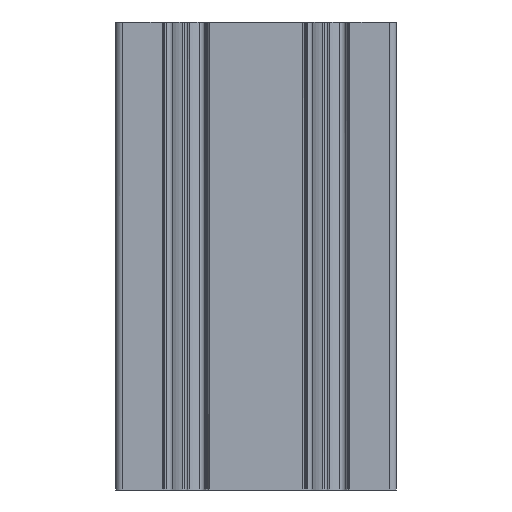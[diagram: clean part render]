
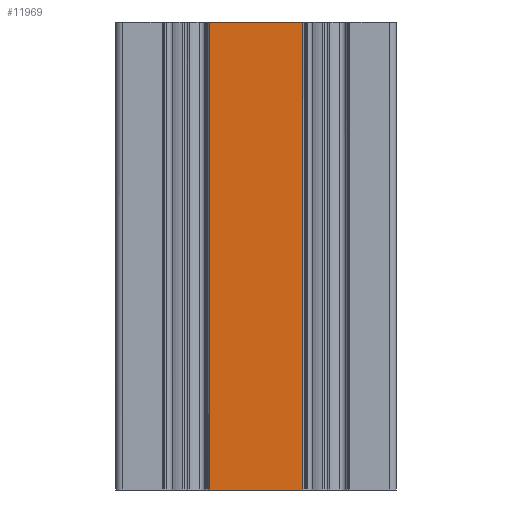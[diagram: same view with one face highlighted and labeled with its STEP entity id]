
A CAD part, front view. The second image highlights one B-rep face of the part: STEP entity #11969.
In plain terms, the highlighted free-form (B-spline) face has degree [1, 1] with [2, 2] control points.
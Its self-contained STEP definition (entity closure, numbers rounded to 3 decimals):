
#18 = CARTESIAN_POINT ( 'NONE',  ( 3692.234, 1745.23, 0. ) ) ;
#522 = CARTESIAN_POINT ( 'NONE',  ( 3712.134, 1745.23, 0. ) ) ;
#675 = CARTESIAN_POINT ( 'NONE',  ( 3712.134, 1745.23, 100. ) ) ;
#679 = B_SPLINE_CURVE_WITH_KNOTS ( 'NONE', 1,
 ( #3909, #7400 ),
 .UNSPECIFIED., .F., .F.,
 ( 2, 2 ),
 ( -1., 0. ),
 .UNSPECIFIED. ) ;
#958 = CARTESIAN_POINT ( 'NONE',  ( 3712.134, 1745.23, 0. ) ) ;
#2304 = EDGE_CURVE ( 'NONE', #7542, #7476, #5463, .T. ) ;
#2526 = CARTESIAN_POINT ( 'NONE',  ( 3692.234, 1745.23, 0. ) ) ;
#3896 = FACE_OUTER_BOUND ( 'NONE', #9547, .T. ) ;
#3909 = CARTESIAN_POINT ( 'NONE',  ( 3692.234, 1745.23, 0. ) ) ;
#4995 = ORIENTED_EDGE ( 'NONE', *, *, #11284, .T. ) ;
#5216 = ORIENTED_EDGE ( 'NONE', *, *, #2304, .F. ) ;
#5280 = CARTESIAN_POINT ( 'NONE',  ( 3712.134, 1745.23, 0. ) ) ;
#5463 = B_SPLINE_CURVE_WITH_KNOTS ( 'NONE', 1,
 ( #6591, #8356 ),
 .UNSPECIFIED., .F., .F.,
 ( 2, 2 ),
 ( 0., 1. ),
 .UNSPECIFIED. ) ;
#5481 = EDGE_CURVE ( 'NONE', #7476, #11885, #11761, .T. ) ;
#6591 = CARTESIAN_POINT ( 'NONE',  ( 3692.234, 1745.23, 100. ) ) ;
#6681 = ORIENTED_EDGE ( 'NONE', *, *, #7793, .F. ) ;
#6722 = CARTESIAN_POINT ( 'NONE',  ( 3692.234, 1745.23, 100. ) ) ;
#7400 = CARTESIAN_POINT ( 'NONE',  ( 3692.234, 1745.23, 100. ) ) ;
#7476 = VERTEX_POINT ( 'NONE', #11354 ) ;
#7542 = VERTEX_POINT ( 'NONE', #6722 ) ;
#7793 = EDGE_CURVE ( 'NONE', #11847, #7542, #679, .T. ) ;
#8074 = CARTESIAN_POINT ( 'NONE',  ( 3692.234, 1745.23, 100. ) ) ;
#8356 = CARTESIAN_POINT ( 'NONE',  ( 3712.134, 1745.23, 100. ) ) ;
#9547 = EDGE_LOOP ( 'NONE', ( #9583, #5216, #6681, #4995 ) ) ;
#9583 = ORIENTED_EDGE ( 'NONE', *, *, #5481, .F. ) ;
#9657 = CARTESIAN_POINT ( 'NONE',  ( 3692.234, 1745.23, 0. ) ) ;
#9680 = B_SPLINE_SURFACE_WITH_KNOTS ( 'NONE', 1, 1, ( 
 ( #2526, #5280 ),
 ( #8074, #675 ) ),
 .UNSPECIFIED., .F., .F., .F.,
 ( 2, 2 ),
 ( 2, 2 ),
 ( 0., 1. ),
 ( 0., 1. ),
 .UNSPECIFIED. ) ;
#10741 = B_SPLINE_CURVE_WITH_KNOTS ( 'NONE', 1,
 ( #18, #958 ),
 .UNSPECIFIED., .F., .F.,
 ( 2, 2 ),
 ( 0., 1. ),
 .UNSPECIFIED. ) ;
#11122 = CARTESIAN_POINT ( 'NONE',  ( 3712.134, 1745.23, 0. ) ) ;
#11211 = CARTESIAN_POINT ( 'NONE',  ( 3712.134, 1745.23, 100. ) ) ;
#11284 = EDGE_CURVE ( 'NONE', #11847, #11885, #10741, .T. ) ;
#11354 = CARTESIAN_POINT ( 'NONE',  ( 3712.134, 1745.23, 100. ) ) ;
#11761 = B_SPLINE_CURVE_WITH_KNOTS ( 'NONE', 1,
 ( #11211, #11122 ),
 .UNSPECIFIED., .F., .F.,
 ( 2, 2 ),
 ( -1., 0. ),
 .UNSPECIFIED. ) ;
#11847 = VERTEX_POINT ( 'NONE', #9657 ) ;
#11885 = VERTEX_POINT ( 'NONE', #522 ) ;
#11969 = ADVANCED_FACE ( 'NONE', ( #3896 ), #9680, .F. ) ;
